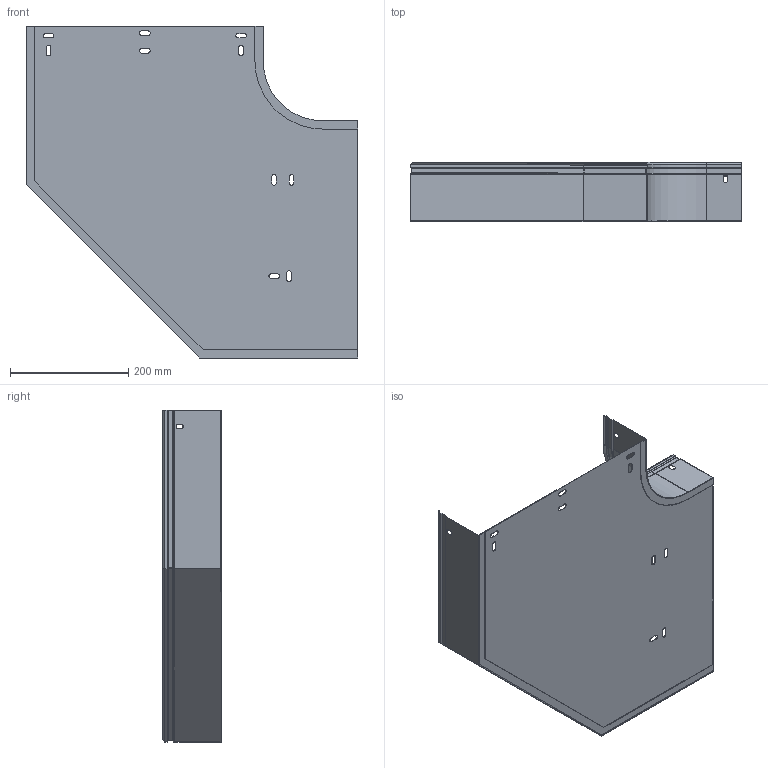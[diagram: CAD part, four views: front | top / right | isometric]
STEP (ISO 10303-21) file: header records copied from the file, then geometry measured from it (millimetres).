
FILE_DESCRIPTION (( 'STEP AP203' ), '1' );
FILE_NAME ('ERE_CPERC 400x100.step', '2023-07-27T18:48:17', ( '' ), ( '' ), 'SwSTEP 2.0', 'SolidWorks 2022', '' );
FILE_SCHEMA (( 'CONFIG_CONTROL_DESIGN' ));
Length unit declared in the file: millimetre
Products named in the file (4): ERE_LATERAL EXT CP_400 x 100; ERE_LATERAL INT CP_100; ERE_CPERC 400x100; ERE_BASE CP_400
Assembly tree (3 placements, depth 2):
  ERE_CPERC 400x100
    ERE_BASE CP_400
    ERE_LATERAL INT CP_100
    ERE_LATERAL EXT CP_400 x 100
Bounding box: 560.74 x 100 x 560.74 mm (x, y, z)
Volume: 387387.1 mm3; surface area: 780299.4 mm2
Topology: 3 solids, 3 shells, 163 faces, 423 edges, 266 vertices
Faces by surface type: plane 115, cylinder 41, cone 7
Entity records: 5367 total; most frequent: CARTESIAN_POINT 858, ORIENTED_EDGE 846, DIRECTION 845, EDGE_CURVE 423, VECTOR 339, LINE 339, VERTEX_POINT 266, AXIS2_PLACEMENT_3D 253
